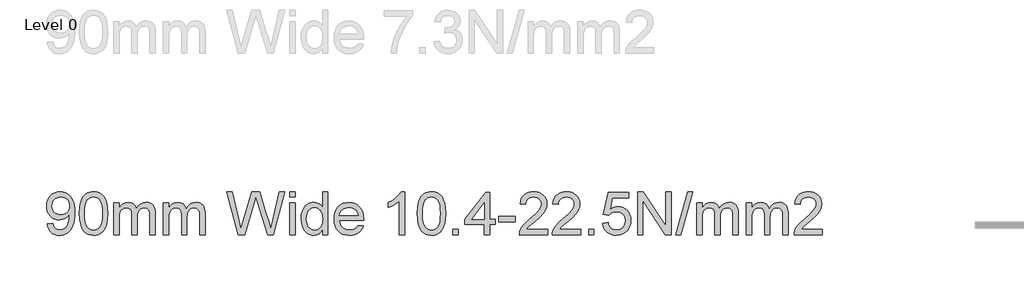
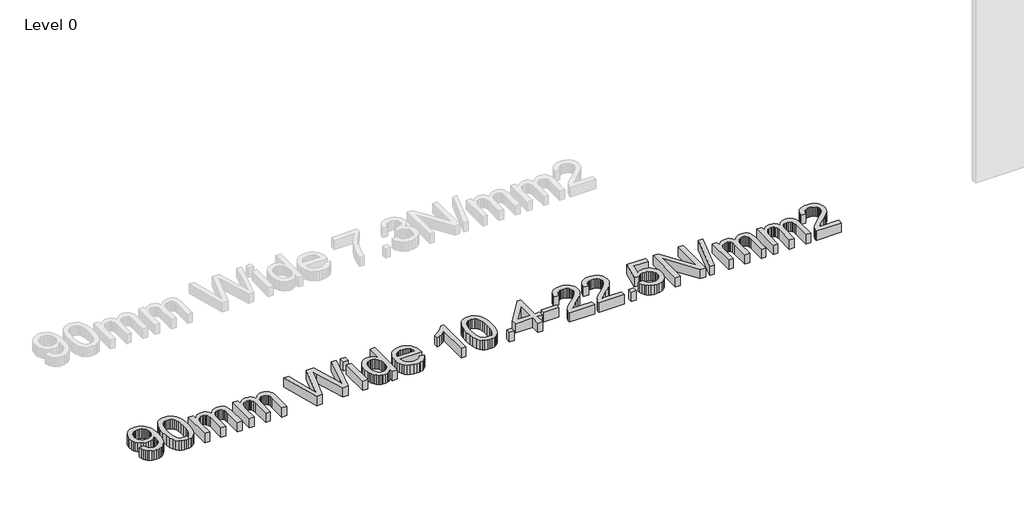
# One storey, part 5 of 14: 1 proxy.
"""IFC4 building model written with IfcOpenShell, lengths in millimetres."""

from ifc_helpers import new_model, si_unit, origin, origin_with_axes, place, context, project, spatial, polyline, outline, extrude, element, save

model = new_model("IFC4")

# Units and contexts
model_context = context("Model", 3, world=origin())
ifc_project = project(units=[si_unit("LENGTHUNIT", "METRE", prefix="MILLI")], contexts=[model_context])

# Site, building, storey
site = spatial("IfcSite", under=ifc_project)
building = spatial("IfcBuilding", under=site)
storey = spatial("IfcBuildingStorey", under=building, Name="Level 0", Elevation=0.0)

# Proxy
placement = place(None, origin())
element("IfcBuildingElementProxy", 1, Name="600mm Arial", ObjectType="600mm Arial", at=placement, inside=storey, context=model_context, shape_type="SweptSolid", body=[
    extrude(outline(polyline([(-37902.4149048, 15065.513593), (-37828.568751, 15074.7443623), (-37815.9485587, 15032.827295), (-37806.6637029, 15016.8852878), (-37795.3956741, 15004.2876315), (-37782.2706741, 14994.7278358), (-37767.4149048, 14987.8994104), (-37732.5110587, 14982.43667), (-37701.1949529, 14985.952295), (-37672.7274048, 14996.49917), (-37649.0735587, 15012.9234488), (-37632.1985587, 15034.0712854), (-37619.4161068, 15061.8717661), (-37608.0399048, 15098.2539777), (-37600.0350972, 15140.0087854), (-37597.3668279, 15183.9270546), (-37597.7995202, 15198.3501315), (-37623.3824529, 15167.12417), (-37656.8620202, 15142.388593), (-37695.8223568, 15126.2708046), (-37737.8475972, 15120.8982084), (-37772.9272246, 15124.1794584), (-37805.1853375, 15134.0232084), (-37834.6219361, 15150.4294584), (-37861.2370202, 15173.3982084), (-37883.2908063, 15201.7305402), (-37899.0435106, 15234.2275354), (-37908.4951332, 15270.889194), (-37911.6456741, 15311.7155161), (-37908.341888, 15353.9030161), (-37898.4305298, 15391.763593), (-37881.9115996, 15425.2972469), (-37858.7850972, 15454.5039777), (-37830.6826332, 15478.1668382), (-37799.2358183, 15495.0688815), (-37764.4446524, 15505.2101075), (-37726.3091356, 15508.5905161), (-37698.1525851, 15506.6614296), (-37671.2310106, 15500.87417), (-37645.5444121, 15491.2287373), (-37621.0927895, 15477.7251315), (-37598.6919481, 15460.6518142), (-37579.1576933, 15440.2972469), (-37562.490025, 15416.6614296), (-37548.6889433, 15389.7443623), (-37537.8671284, 15357.9955642), (-37530.1372606, 15319.8645546), (-37525.4993399, 15275.3513334), (-37523.9533664, 15224.4559007), (-37525.4948327, 15171.0048791), (-37530.1192318, 15123.296045), (-37537.8265635, 15081.3293983), (-37548.6168279, 15045.1049392), (-37562.4494601, 15013.7392541), (-37579.2838952, 14986.3489296), (-37599.1201332, 14962.9339656), (-37621.9581741, 14943.4943623), (-37647.3382823, 14928.2239296), (-37674.8007222, 14917.3164777), (-37704.3454938, 14910.7720065), (-37735.9725972, 14908.5905161), (-37769.1366597, 14911.1641339), (-37799.1096164, 14918.8849873), (-37825.8914673, 14931.7530762), (-37849.4822125, 14949.7684007), (-37869.2869, 14972.444182), (-37884.7105779, 14999.2936411), (-37895.7532462, 15030.3167781), (-37902.4149048, 15065.513593)]), holes=[polyline([(-37597.7995202, 15313.4462854), (-37599.7917077, 15339.9126315), (-37605.7682702, 15363.4943623), (-37615.7292077, 15384.1914777), (-37629.6745202, 15402.0039777), (-37646.9191116, 15416.3278959), (-37666.7778856, 15426.5592661), (-37689.2508423, 15432.6980882), (-37714.3379818, 15434.7443623), (-37740.2274048, 15432.5403358), (-37763.6649048, 15425.9282565), (-37784.6504818, 15414.9081243), (-37803.1841356, 15399.4799392), (-37818.3283664, 15380.5451435), (-37829.1456741, 15359.0051796), (-37835.6360587, 15334.8600474), (-37837.7995202, 15308.1097469), (-37835.7532462, 15284.1178599), (-37829.6144241, 15262.4787373), (-37819.3830539, 15243.1923791), (-37805.0591356, 15226.2587854), (-37787.2376212, 15212.4712253), (-37766.5134625, 15202.622968), (-37742.8866597, 15196.7140137), (-37716.3572125, 15194.7443623), (-37691.6171284, 15196.7140137), (-37669.1757222, 15202.622968), (-37649.0329938, 15212.4712253), (-37631.1889433, 15226.2587854), (-37616.5810707, 15243.5259128), (-37606.146876, 15263.8128719), (-37599.8863592, 15287.1196628), (-37597.7995202, 15313.4462854)])]), origin_with_axes(), (0.0, 0.0, 1.0), 150.0),
    extrude(outline(polyline([(-37459.3379818, 15208.4462854), (-37453.9112991, 15303.0075834), (-37447.1279457, 15343.1082445), (-37437.631251, 15378.4222469), (-37425.4617798, 15409.2380522), (-37410.6600972, 15435.8441219), (-37393.2262029, 15458.240456), (-37373.1600972, 15476.4270546), (-37350.3941717, 15490.498569), (-37324.8608183, 15500.5496507), (-37296.5600371, 15506.5802998), (-37265.4918279, 15508.5905161), (-37219.9870202, 15503.8309007), (-37179.2418279, 15489.5520546), (-37145.1673087, 15466.3128719), (-37119.6745202, 15434.6722469), (-37100.4197125, 15394.9006123), (-37085.0591356, 15347.2684007), (-37074.9990395, 15286.7816219), (-37071.6456741, 15208.4462854), (-37077.0182702, 15114.4258527), (-37083.7340154, 15074.4604079), (-37093.1360587, 15039.1914777), (-37105.2108784, 15008.3621507), (-37119.9449529, 14981.7155161), (-37137.3382823, 14959.2515738), (-37157.3908664, 14940.9703238), (-37180.1838351, 14926.8041579), (-37205.7983183, 14916.685468), (-37234.2343159, 14910.6142541), (-37265.4918279, 14908.5905161), (-37306.1649048, 14912.1061411), (-37342.2225972, 14922.6530161), (-37373.6649048, 14940.2311411), (-37400.4918279, 14964.8405161), (-37426.2370202, 15009.326694), (-37444.6264433, 15064.7563815), (-37455.6600972, 15131.1295786), (-37459.3379818, 15208.4462854)]), holes=[polyline([(-37385.4918279, 15208.5905161), (-37383.3283664, 15144.3943022), (-37376.8379818, 15092.4306604), (-37366.0206741, 15052.6995906), (-37350.8764433, 15025.201093), (-37332.5591356, 15006.4916579), (-37312.2225972, 14993.1277757), (-37289.8668279, 14985.1094464), (-37265.4918279, 14982.43667), (-37241.1168279, 14985.1184608), (-37218.7610587, 14993.1638334), (-37198.4245202, 15006.5727878), (-37180.1072125, 15025.3453238), (-37164.9629818, 15052.8888935), (-37154.1456741, 15092.6109488), (-37147.6552895, 15144.5114897), (-37145.4918279, 15208.5905161), (-37147.5831741, 15271.0875113), (-37153.8572125, 15322.1361892), (-37164.3139433, 15361.7365498), (-37178.9533664, 15389.888593), (-37196.9641837, 15409.5129921), (-37217.5350972, 15423.53042), (-37240.6661068, 15431.9408767), (-37266.3572125, 15434.7443623), (-37290.6060106, 15432.2744104), (-37312.5831741, 15424.8645546), (-37332.2887029, 15412.514795), (-37349.7225972, 15395.2251315), (-37365.3716356, 15364.576093), (-37376.5495202, 15323.2539777), (-37383.256251, 15271.2587854), (-37385.4918279, 15208.5905161)])]), origin_with_axes(), (0.0, 0.0, 1.0), 150.0),
    extrude(outline(polyline([(-36988.568751, 14917.8212854), (-36988.568751, 15351.6674392), (-36914.7225972, 15351.6674392), (-36914.7225972, 15280.2732084), (-36892.5110587, 15313.0676796), (-36863.9533664, 15338.7587854), (-36830.0230779, 15355.3633527), (-36791.693751, 15360.8982084), (-36750.6240395, 15355.2551796), (-36733.1450731, 15348.2013935), (-36717.7033664, 15338.326093), (-36693.1120202, 15311.2287373), (-36677.0302895, 15275.0809007), (-36650.1132222, 15312.6259729), (-36619.4100972, 15339.4438815), (-36584.9209145, 15355.5346267), (-36546.6456741, 15360.8982084), (-36517.0828736, 15358.6671387), (-36491.1348568, 15351.9739296), (-36468.8016236, 15340.818581), (-36450.0831741, 15325.201093), (-36435.2859986, 15304.9411772), (-36424.7165875, 15279.858545), (-36418.3749409, 15249.9531964), (-36416.2610587, 15215.2251315), (-36416.2610587, 14917.8212854), (-36490.1072125, 14917.8212854), (-36490.1072125, 15183.4943623), (-36491.8199529, 15220.327295), (-36496.9581741, 15245.1530161), (-36506.5855779, 15262.154218), (-36521.7658664, 15275.513593), (-36541.2911068, 15284.1674392), (-36563.9533664, 15287.0520546), (-36584.8803496, 15285.2040979), (-36603.959376, 15279.6602277), (-36621.1904457, 15270.420444), (-36636.5735587, 15257.4847469), (-36649.2253015, 15240.4745305), (-36658.2622606, 15219.0111892), (-36663.6844361, 15193.0947229), (-36665.4918279, 15162.7251315), (-36665.4918279, 14917.8212854), (-36739.3379818, 14917.8212854), (-36739.3379818, 15191.7155161), (-36743.6108183, 15233.4703238), (-36756.4293279, 15263.2539777), (-36766.3406861, 15273.6656363), (-36778.9834145, 15281.1025354), (-36794.357513, 15285.5646748), (-36812.4629818, 15287.0520546), (-36840.912501, 15283.0857084), (-36867.1264433, 15271.18667), (-36888.7610587, 15251.6434007), (-36903.4725972, 15224.7443623), (-36911.9100972, 15187.4246507), (-36914.7225972, 15136.6193623), (-36914.7225972, 14917.8212854), (-36988.568751, 14917.8212854)])), origin_with_axes(), (0.0, 0.0, 1.0), 150.0),
    extrude(outline(polyline([(-36305.4918279, 14917.8212854), (-36305.4918279, 15351.6674392), (-36231.6456741, 15351.6674392), (-36231.6456741, 15280.2732084), (-36209.4341356, 15313.0676796), (-36180.8764433, 15338.7587854), (-36146.9461548, 15355.3633527), (-36108.6168279, 15360.8982084), (-36067.5471164, 15355.2551796), (-36050.06815, 15348.2013935), (-36034.6264433, 15338.326093), (-36010.0350972, 15311.2287373), (-35993.9533664, 15275.0809007), (-35967.0362991, 15312.6259729), (-35936.3331741, 15339.4438815), (-35901.8439914, 15355.5346267), (-35863.568751, 15360.8982084), (-35834.0059505, 15358.6671387), (-35808.0579337, 15351.9739296), (-35785.7247005, 15340.818581), (-35767.006251, 15325.201093), (-35752.2090755, 15304.9411772), (-35741.6396645, 15279.858545), (-35735.2980178, 15249.9531964), (-35733.1841356, 15215.2251315), (-35733.1841356, 14917.8212854), (-35807.0302895, 14917.8212854), (-35807.0302895, 15183.4943623), (-35808.7430298, 15220.327295), (-35813.881251, 15245.1530161), (-35823.5086548, 15262.154218), (-35838.6889433, 15275.513593), (-35858.2141837, 15284.1674392), (-35880.8764433, 15287.0520546), (-35901.8034265, 15285.2040979), (-35920.8824529, 15279.6602277), (-35938.1135226, 15270.420444), (-35953.4966356, 15257.4847469), (-35966.1483784, 15240.4745305), (-35975.1853375, 15219.0111892), (-35980.607513, 15193.0947229), (-35982.4149048, 15162.7251315), (-35982.4149048, 14917.8212854), (-36056.2610587, 14917.8212854), (-36056.2610587, 15191.7155161), (-36060.5338952, 15233.4703238), (-36073.3524048, 15263.2539777), (-36083.263763, 15273.6656363), (-36095.9064914, 15281.1025354), (-36111.2805899, 15285.5646748), (-36129.3860587, 15287.0520546), (-36157.8355779, 15283.0857084), (-36184.0495202, 15271.18667), (-36205.6841356, 15251.6434007), (-36220.3956741, 15224.7443623), (-36228.8331741, 15187.4246507), (-36231.6456741, 15136.6193623), (-36231.6456741, 14917.8212854), (-36305.4918279, 14917.8212854)])), origin_with_axes(), (0.0, 0.0, 1.0), 150.0),
    extrude(outline(polyline([(-35276.693751, 14917.8212854), (-35437.7995202, 15508.5905161), (-35361.6456741, 15508.5905161), (-35268.1841356, 15120.3212854), (-35239.3379818, 15000.4655161), (-35208.4725972, 15106.4751315), (-35091.3572125, 15508.5905161), (-34981.5975972, 15508.5905161), (-34896.5014433, 15217.1001315), (-34860.0471164, 15108.9270546), (-34833.1841356, 15000.4655161), (-34805.2033664, 15116.8597469), (-34710.8764433, 15508.5905161), (-34634.7225972, 15508.5905161), (-34795.9725972, 14917.8212854), (-34874.8668279, 14917.8212854), (-35016.5014433, 15373.5905161), (-35036.2610587, 15437.1962854), (-35058.4725972, 15360.6097469), (-35187.5591356, 14917.8212854), (-35276.693751, 14917.8212854)])), origin_with_axes(), (0.0, 0.0, 1.0), 150.0),
    extrude(outline(polyline([(-34570.1072125, 14917.8212854), (-34570.1072125, 15351.6674392), (-34496.2610587, 15351.6674392), (-34496.2610587, 14917.8212854), (-34570.1072125, 14917.8212854)])), origin_with_axes(), (0.0, 0.0, 1.0), 150.0),
    extrude(outline(polyline([(-34570.1072125, 15434.7443623), (-34570.1072125, 15508.5905161), (-34496.2610587, 15508.5905161), (-34496.2610587, 15434.7443623), (-34570.1072125, 15434.7443623)])), origin_with_axes(), (0.0, 0.0, 1.0), 150.0),
    extrude(outline(polyline([(-34117.7995202, 14917.8212854), (-34117.7995202, 14987.4847469), (-34139.8938712, 14952.9685209), (-34166.6576933, 14928.3140738), (-34198.0909866, 14913.5214055), (-34234.193751, 14908.5905161), (-34258.568751, 14910.3753719), (-34281.9341356, 14915.7299392), (-34304.2899048, 14924.654218), (-34325.6360587, 14937.1482084), (-34345.3055298, 14952.8378118), (-34362.631251, 14971.3489296), (-34377.6132222, 14992.6815618), (-34390.2514433, 15016.8357084), (-34400.2844962, 15043.3516339), (-34407.4509625, 15071.7696027), (-34413.1841356, 15134.31167), (-34407.9016837, 15196.0784969), (-34392.0543279, 15251.8597469), (-34380.1733183, 15276.7125113), (-34365.6600972, 15298.482343), (-34348.5146645, 15317.1692421), (-34328.7370202, 15332.7732084), (-34307.0257823, 15345.0778959), (-34284.0795683, 15353.8669584), (-34259.8983784, 15359.1403959), (-34234.4822125, 15360.8982084), (-34198.3524048, 15355.8681604), (-34166.4052895, 15340.7780161), (-34139.3259625, 15317.6470065), (-34117.7995202, 15288.4943623), (-34117.7995202, 15508.5905161), (-34043.9533664, 15508.5905161), (-34043.9533664, 14917.8212854), (-34117.7995202, 14917.8212854)]), holes=[polyline([(-34339.3379818, 15134.6001315), (-34337.25565, 15098.7903358), (-34331.0086548, 15067.8032565), (-34320.5969962, 15041.6388935), (-34306.0206741, 15020.2972469), (-34288.6138231, 15003.7332445), (-34269.7105779, 14991.9018142), (-34249.3109385, 14984.802956), (-34227.4149048, 14982.43667), (-34205.4152053, 14984.6947829), (-34185.1372606, 14991.4691219), (-34166.5810707, 15002.7596868), (-34149.7466356, 15018.5664777), (-34135.7697726, 15039.0156964), (-34125.7862991, 15064.233545), (-34119.7962149, 15094.2200233), (-34117.7995202, 15128.9751315), (-34119.8322726, 15167.0790979), (-34125.9305298, 15199.7563815), (-34136.0942919, 15227.0069825), (-34150.3235587, 15248.8309007), (-34167.5275851, 15265.5526555), (-34186.615626, 15277.4967661), (-34207.5876813, 15284.6632325), (-34230.443751, 15287.0520546), (-34252.772477, 15284.7578839), (-34273.1721164, 15277.8753719), (-34291.6426693, 15266.4045185), (-34308.1841356, 15250.3453238), (-34321.8139433, 15229.3462253), (-34331.5495202, 15203.0556604), (-34337.3908664, 15171.4736291), (-34339.3379818, 15134.6001315)])]), origin_with_axes(), (0.0, 0.0, 1.0), 150.0),
    extrude(outline(polyline([(-33629.4341356, 15047.0520546), (-33557.0302895, 15037.8212854), (-33568.1315515, 15008.8218863), (-33583.1180298, 14983.2659969), (-33601.9897246, 14961.1536171), (-33624.7466356, 14942.4847469), (-33651.154388, 14927.6560209), (-33680.9786068, 14917.0640738), (-33714.2192919, 14910.7089055), (-33750.8764433, 14908.5905161), (-33796.6967558, 14912.2458647), (-33837.5230779, 14923.2119104), (-33873.3554097, 14941.4886531), (-33904.193751, 14967.076093), (-33928.9924289, 14999.2620906), (-33946.7057702, 15037.3345065), (-33957.333775, 15081.2933406), (-33960.8764433, 15131.138593), (-33957.2977173, 15182.6740498), (-33946.5615395, 15228.0977277), (-33928.6679097, 15267.4096267), (-33903.6168279, 15300.6097469), (-33872.8596164, 15326.9859488), (-33837.8475972, 15345.826093), (-33798.5807702, 15357.1301796), (-33755.0591356, 15360.8982084), (-33712.9392438, 15357.139194), (-33674.8487991, 15345.8621507), (-33640.7878015, 15327.0670786), (-33610.756251, 15300.7539777), (-33586.2415274, 15267.6259729), (-33568.7310106, 15228.3861892), (-33558.2247005, 15183.0346267), (-33554.7225972, 15131.5712854), (-33555.1552895, 15111.6674392), (-33887.0302895, 15111.6674392), (-33882.7529457, 15082.1992902), (-33874.2478375, 15056.3909969), (-33861.5149649, 15034.2425594), (-33844.5543279, 15015.7539777), (-33824.3034265, 15001.1776555), (-33801.6997606, 14990.7659969), (-33776.7433303, 14984.5190017), (-33749.4341356, 14982.43667), (-33710.131251, 14986.294843), (-33677.0302895, 14997.8693623), (-33650.131251, 15017.8813815), (-33629.4341356, 15047.0520546)]), holes=[polyline([(-33887.0302895, 15185.513593), (-33628.568751, 15185.513593), (-33638.5567318, 15224.5280161), (-33647.147477, 15239.8705642), (-33658.1360587, 15252.43667), (-33678.2742798, 15267.5809007), (-33701.1889433, 15278.3982084), (-33726.8800491, 15284.888593), (-33755.3475972, 15287.0520546), (-33781.3136428, 15285.3257926), (-33805.1252414, 15280.1470065), (-33826.7823928, 15271.5156964), (-33846.2850972, 15259.4318623), (-33862.6507823, 15244.4543983), (-33874.896876, 15227.1421988), (-33883.0233784, 15207.4952637), (-33887.0302895, 15185.513593)])]), origin_with_axes(), (0.0, 0.0, 1.0), 150.0),
    extrude(outline(polyline([(-32991.6456741, 14917.8212854), (-33065.4918279, 14917.8212854), (-33065.4918279, 15378.2059007), (-33096.3211548, 15353.2720065), (-33135.443751, 15328.37417), (-33176.5134625, 15306.6133527), (-33213.1841356, 15291.0905161), (-33213.1841356, 15360.8982084), (-33155.1853375, 15392.4486892), (-33104.9389433, 15429.9847469), (-33065.3295683, 15469.9006123), (-33039.2418279, 15508.5905161), (-32991.6456741, 15508.5905161), (-32991.6456741, 14917.8212854)])), origin_with_axes(), (0.0, 0.0, 1.0), 150.0),
    extrude(outline(polyline([(-32816.2610587, 15208.4462854), (-32810.834376, 15303.0075834), (-32804.0510226, 15343.1082445), (-32794.5543279, 15378.4222469), (-32782.3848568, 15409.2380522), (-32767.5831741, 15435.8441219), (-32750.1492798, 15458.240456), (-32730.0831741, 15476.4270546), (-32707.3172486, 15490.498569), (-32681.7838952, 15500.5496507), (-32653.483114, 15506.5802998), (-32622.4149048, 15508.5905161), (-32576.9100972, 15503.8309007), (-32536.1649048, 15489.5520546), (-32502.0903856, 15466.3128719), (-32476.5975972, 15434.6722469), (-32457.3427895, 15394.9006123), (-32441.9822125, 15347.2684007), (-32431.9221164, 15286.7816219), (-32428.568751, 15208.4462854), (-32433.9413472, 15114.4258527), (-32440.6570923, 15074.4604079), (-32450.0591356, 15039.1914777), (-32462.1339553, 15008.3621507), (-32476.8680298, 14981.7155161), (-32494.2613592, 14959.2515738), (-32514.3139433, 14940.9703238), (-32537.1069121, 14926.8041579), (-32562.7213952, 14916.685468), (-32591.1573928, 14910.6142541), (-32622.4149048, 14908.5905161), (-32663.0879818, 14912.1061411), (-32699.1456741, 14922.6530161), (-32730.5879818, 14940.2311411), (-32757.4149048, 14964.8405161), (-32783.1600972, 15009.326694), (-32801.5495202, 15064.7563815), (-32812.5831741, 15131.1295786), (-32816.2610587, 15208.4462854)]), holes=[polyline([(-32742.4149048, 15208.5905161), (-32740.2514433, 15144.3943022), (-32733.7610587, 15092.4306604), (-32722.943751, 15052.6995906), (-32707.7995202, 15025.201093), (-32689.4822125, 15006.4916579), (-32669.1456741, 14993.1277757), (-32646.7899048, 14985.1094464), (-32622.4149048, 14982.43667), (-32598.0399048, 14985.1184608), (-32575.6841356, 14993.1638334), (-32555.3475972, 15006.5727878), (-32537.0302895, 15025.3453238), (-32521.8860587, 15052.8888935), (-32511.068751, 15092.6109488), (-32504.5783664, 15144.5114897), (-32502.4149048, 15208.5905161), (-32504.506251, 15271.0875113), (-32510.7802895, 15322.1361892), (-32521.2370202, 15361.7365498), (-32535.8764433, 15389.888593), (-32553.8872606, 15409.5129921), (-32574.4581741, 15423.53042), (-32597.5891837, 15431.9408767), (-32623.2802895, 15434.7443623), (-32647.5290875, 15432.2744104), (-32669.506251, 15424.8645546), (-32689.2117798, 15412.514795), (-32706.6456741, 15395.2251315), (-32722.2947125, 15364.576093), (-32733.4725972, 15323.2539777), (-32740.1793279, 15271.2587854), (-32742.4149048, 15208.5905161)])]), origin_with_axes(), (0.0, 0.0, 1.0), 150.0),
    extrude(outline(polyline([(-32327.0302895, 14917.8212854), (-32327.0302895, 14991.6674392), (-32253.1841356, 14991.6674392), (-32253.1841356, 14917.8212854), (-32327.0302895, 14917.8212854)])), origin_with_axes(), (0.0, 0.0, 1.0), 150.0),
    extrude(outline(polyline([(-31893.1841356, 14917.8212854), (-31893.1841356, 15056.2828238), (-32160.8764433, 15056.2828238), (-32160.8764433, 15130.1289777), (-31874.7225972, 15499.3597469), (-31819.3379818, 15499.3597469), (-31819.3379818, 15130.1289777), (-31745.4918279, 15130.1289777), (-31745.4918279, 15056.2828238), (-31819.3379818, 15056.2828238), (-31819.3379818, 14917.8212854), (-31893.1841356, 14917.8212854)]), holes=[polyline([(-31893.1841356, 15130.1289777), (-31893.1841356, 15358.3020546), (-32070.0110587, 15130.1289777), (-31893.1841356, 15130.1289777)])]), origin_with_axes(), (0.0, 0.0, 1.0), 150.0),
    extrude(outline(polyline([(-31699.3379818, 15093.2059007), (-31699.3379818, 15167.0520546), (-31468.568751, 15167.0520546), (-31468.568751, 15093.2059007), (-31699.3379818, 15093.2059007)])), origin_with_axes(), (0.0, 0.0, 1.0), 150.0),
    extrude(outline(polyline([(-31025.4918279, 14991.6674392), (-31025.4918279, 14917.8212854), (-31413.1841356, 14917.8212854), (-31411.5615395, 14943.8188815), (-31405.2514433, 14968.7347469), (-31387.0423087, 15008.5244104), (-31360.3956741, 15047.12417), (-31321.850001, 15087.5268142), (-31267.943751, 15132.7251315), (-31188.256251, 15203.5063815), (-31140.443751, 15255.7539777), (-31126.4984385, 15277.1001315), (-31116.537501, 15298.1578238), (-31110.5609385, 15318.9270546), (-31108.568751, 15339.4078238), (-31110.4482582, 15358.6761531), (-31116.0867798, 15376.3849873), (-31125.4843159, 15392.5343262), (-31138.6408664, 15407.12417), (-31154.826263, 15419.2080041), (-31173.3103375, 15427.8393142), (-31194.0930899, 15433.0181003), (-31217.1745202, 15434.7443623), (-31241.4909265, 15433.0586652), (-31263.2382222, 15428.0015738), (-31282.4164073, 15419.5730882), (-31299.0254818, 15407.7732084), (-31312.4614794, 15392.998569), (-31322.1204337, 15375.6458046), (-31328.0023448, 15355.7149152), (-31330.1072125, 15333.2059007), (-31403.9533664, 15342.43667), (-31397.6027053, 15380.5586652), (-31386.0507222, 15413.8669584), (-31369.2974169, 15442.3615498), (-31347.3427895, 15466.0424392), (-31320.6916476, 15484.6572229), (-31289.8487991, 15497.9534969), (-31254.8142438, 15505.9312613), (-31215.5879818, 15508.5905161), (-31176.0101573, 15505.6337854), (-31140.7862991, 15496.763593), (-31109.9164073, 15481.9799392), (-31083.4004818, 15461.2828238), (-31062.1039073, 15436.2046988), (-31046.8920683, 15408.2780161), (-31037.7649649, 15377.5027757), (-31034.7225972, 15343.8789777), (-31038.0038472, 15308.560468), (-31047.8475972, 15273.8549392), (-31065.3175491, 15238.5544584), (-31091.4774048, 15201.451093), (-31133.178126, 15157.154218), (-31197.2706741, 15100.2732084), (-31282.2225972, 15029.2395546), (-31315.5399048, 14991.6674392), (-31025.4918279, 14991.6674392)])), origin_with_axes(), (0.0, 0.0, 1.0), 150.0),
    extrude(outline(polyline([(-30573.1841356, 14991.6674392), (-30573.1841356, 14917.8212854), (-30960.8764433, 14917.8212854), (-30959.2538472, 14943.8188815), (-30952.943751, 14968.7347469), (-30934.7346164, 15008.5244104), (-30908.0879818, 15047.12417), (-30869.5423087, 15087.5268142), (-30815.6360587, 15132.7251315), (-30735.9485587, 15203.5063815), (-30688.1360587, 15255.7539777), (-30674.1907462, 15277.1001315), (-30664.2298087, 15298.1578238), (-30658.2532462, 15318.9270546), (-30656.2610587, 15339.4078238), (-30658.1405659, 15358.6761531), (-30663.7790875, 15376.3849873), (-30673.1766236, 15392.5343262), (-30686.3331741, 15407.12417), (-30702.5185707, 15419.2080041), (-30721.0026452, 15427.8393142), (-30741.7853976, 15433.0181003), (-30764.8668279, 15434.7443623), (-30789.1832342, 15433.0586652), (-30810.9305298, 15428.0015738), (-30830.1087149, 15419.5730882), (-30846.7177895, 15407.7732084), (-30860.1537871, 15392.998569), (-30869.8127414, 15375.6458046), (-30875.6946524, 15355.7149152), (-30877.7995202, 15333.2059007), (-30951.6456741, 15342.43667), (-30945.295013, 15380.5586652), (-30933.7430298, 15413.8669584), (-30916.9897246, 15442.3615498), (-30895.0350972, 15466.0424392), (-30868.3839553, 15484.6572229), (-30837.5411068, 15497.9534969), (-30802.5065515, 15505.9312613), (-30763.2802895, 15508.5905161), (-30723.7024649, 15505.6337854), (-30688.4786068, 15496.763593), (-30657.6087149, 15481.9799392), (-30631.0927895, 15461.2828238), (-30609.7962149, 15436.2046988), (-30594.584376, 15408.2780161), (-30585.4572726, 15377.5027757), (-30582.4149048, 15343.8789777), (-30585.6961548, 15308.560468), (-30595.5399048, 15273.8549392), (-30613.0098568, 15238.5544584), (-30639.1697125, 15201.451093), (-30680.8704337, 15157.154218), (-30744.9629818, 15100.2732084), (-30829.9149048, 15029.2395546), (-30863.2322125, 14991.6674392), (-30573.1841356, 14991.6674392)])), origin_with_axes(), (0.0, 0.0, 1.0), 150.0),
    extrude(outline(polyline([(-30462.4149048, 14917.8212854), (-30462.4149048, 14991.6674392), (-30388.568751, 14991.6674392), (-30388.568751, 14917.8212854), (-30462.4149048, 14917.8212854)])), origin_with_axes(), (0.0, 0.0, 1.0), 150.0),
    extrude(outline(polyline([(-30268.568751, 15074.7443623), (-30194.7225972, 15083.9751315), (-30189.2057702, 15060.2356483), (-30181.1649048, 15039.6421988), (-30170.600001, 15022.1947829), (-30157.5110587, 15007.8934007), (-30141.9251212, 14996.756081), (-30123.8692318, 14988.8008527), (-30103.3433904, 14984.0277156), (-30080.3475972, 14982.43667), (-30052.2225972, 14984.6497108), (-30027.4149048, 14991.2888334), (-30005.9245202, 15002.3540378), (-29987.7514433, 15017.8453238), (-29973.3013231, 15036.9964656), (-29962.9798087, 15059.0412373), (-29956.7869, 15083.9796387), (-29954.7225972, 15111.81167), (-29956.6561909, 15138.1157565), (-29962.4569722, 15161.49917), (-29972.1249409, 15181.9619104), (-29985.6600972, 15199.5039777), (-30003.107513, 15213.5754921), (-30024.5122606, 15223.6265738), (-30049.8743399, 15229.6572229), (-30079.193751, 15231.6674392), (-30115.0170683, 15228.4583046), (-30144.0254818, 15218.8309007), (-30167.1925491, 15204.0833046), (-30185.4918279, 15185.513593), (-30259.3379818, 15194.7443623), (-30194.7225972, 15499.3597469), (-29908.568751, 15499.3597469), (-29908.568751, 15425.513593), (-30135.0110587, 15425.513593), (-30166.5975972, 15262.8212854), (-30140.5369, 15281.49917), (-30113.8451933, 15294.8405161), (-30086.522477, 15302.8453238), (-30058.568751, 15305.513593), (-30022.6057101, 15302.2052998), (-29989.5723568, 15292.28042), (-29959.4686909, 15275.7389536), (-29932.2947125, 15252.5809007), (-29909.7992198, 15224.2215257), (-29893.7310106, 15192.076093), (-29884.0900851, 15156.1446027), (-29880.8764433, 15116.4270546), (-29883.7700731, 15078.169843), (-29892.4509625, 15042.5809007), (-29906.9191116, 15009.6602277), (-29927.1745202, 14979.4078238), (-29957.8596164, 14948.4252517), (-29993.6649048, 14926.294843), (-30034.5903856, 14913.0165979), (-30080.6360587, 14908.5905161), (-30118.7445323, 14911.4345666), (-30153.1661068, 14919.966718), (-30183.9007823, 14934.1869704), (-30210.9485587, 14954.0953238), (-30233.4530659, 14978.7001916), (-30250.5579337, 15007.0099873), (-30262.2631621, 15039.0247108), (-30268.568751, 15074.7443623)])), origin_with_axes(), (0.0, 0.0, 1.0), 150.0),
    extrude(outline(polyline([(-29788.568751, 14917.8212854), (-29788.568751, 15508.5905161), (-29709.5302895, 15508.5905161), (-29400.8764433, 15040.56167), (-29400.8764433, 15508.5905161), (-29327.0302895, 15508.5905161), (-29327.0302895, 14917.8212854), (-29406.068751, 14917.8212854), (-29714.7225972, 15385.9943623), (-29714.7225972, 14917.8212854), (-29788.568751, 14917.8212854)])), origin_with_axes(), (0.0, 0.0, 1.0), 150.0),
    extrude(outline(polyline([(-29262.4149048, 14917.8212854), (-29096.2610587, 15508.5905161), (-29029.6264433, 15508.5905161), (-29195.7802895, 14917.8212854), (-29262.4149048, 14917.8212854)])), origin_with_axes(), (0.0, 0.0, 1.0), 150.0),
    extrude(outline(polyline([(-28976.2610587, 14917.8212854), (-28976.2610587, 15351.6674392), (-28902.4149048, 15351.6674392), (-28902.4149048, 15280.2732084), (-28880.2033664, 15313.0676796), (-28851.6456741, 15338.7587854), (-28817.7153856, 15355.3633527), (-28779.3860587, 15360.8982084), (-28738.3163472, 15355.2551796), (-28720.8373808, 15348.2013935), (-28705.3956741, 15338.326093), (-28680.8043279, 15311.2287373), (-28664.7225972, 15275.0809007), (-28637.8055298, 15312.6259729), (-28607.1024048, 15339.4438815), (-28572.6132222, 15355.5346267), (-28534.3379818, 15360.8982084), (-28504.7751813, 15358.6671387), (-28478.8271645, 15351.9739296), (-28456.4939313, 15340.818581), (-28437.7754818, 15325.201093), (-28422.9783063, 15304.9411772), (-28412.4088952, 15279.858545), (-28406.0672486, 15249.9531964), (-28403.9533664, 15215.2251315), (-28403.9533664, 14917.8212854), (-28477.7995202, 14917.8212854), (-28477.7995202, 15183.4943623), (-28479.5122606, 15220.327295), (-28484.6504818, 15245.1530161), (-28494.2778856, 15262.154218), (-28509.4581741, 15275.513593), (-28528.9834145, 15284.1674392), (-28551.6456741, 15287.0520546), (-28572.5726573, 15285.2040979), (-28591.6516837, 15279.6602277), (-28608.8827534, 15270.420444), (-28624.2658664, 15257.4847469), (-28636.9176092, 15240.4745305), (-28645.9545683, 15219.0111892), (-28651.3767438, 15193.0947229), (-28653.1841356, 15162.7251315), (-28653.1841356, 14917.8212854), (-28727.0302895, 14917.8212854), (-28727.0302895, 15191.7155161), (-28731.303126, 15233.4703238), (-28744.1216356, 15263.2539777), (-28754.0329938, 15273.6656363), (-28766.6757222, 15281.1025354), (-28782.0498207, 15285.5646748), (-28800.1552895, 15287.0520546), (-28828.6048087, 15283.0857084), (-28854.818751, 15271.18667), (-28876.4533664, 15251.6434007), (-28891.1649048, 15224.7443623), (-28899.6024048, 15187.4246507), (-28902.4149048, 15136.6193623), (-28902.4149048, 14917.8212854), (-28976.2610587, 14917.8212854)])), origin_with_axes(), (0.0, 0.0, 1.0), 150.0),
    extrude(outline(polyline([(-28293.1841356, 14917.8212854), (-28293.1841356, 15351.6674392), (-28219.3379818, 15351.6674392), (-28219.3379818, 15280.2732084), (-28197.1264433, 15313.0676796), (-28168.568751, 15338.7587854), (-28134.6384625, 15355.3633527), (-28096.3091356, 15360.8982084), (-28055.2394241, 15355.2551796), (-28037.7604577, 15348.2013935), (-28022.318751, 15338.326093), (-27997.7274048, 15311.2287373), (-27981.6456741, 15275.0809007), (-27954.7286068, 15312.6259729), (-27924.0254818, 15339.4438815), (-27889.5362991, 15355.5346267), (-27851.2610587, 15360.8982084), (-27821.6982582, 15358.6671387), (-27795.7502414, 15351.9739296), (-27773.4170082, 15340.818581), (-27754.6985587, 15325.201093), (-27739.9013832, 15304.9411772), (-27729.3319722, 15279.858545), (-27722.9903255, 15249.9531964), (-27720.8764433, 15215.2251315), (-27720.8764433, 14917.8212854), (-27794.7225972, 14917.8212854), (-27794.7225972, 15183.4943623), (-27796.4353375, 15220.327295), (-27801.5735587, 15245.1530161), (-27811.2009625, 15262.154218), (-27826.381251, 15275.513593), (-27845.9064914, 15284.1674392), (-27868.568751, 15287.0520546), (-27889.4957342, 15285.2040979), (-27908.5747606, 15279.6602277), (-27925.8058303, 15270.420444), (-27941.1889433, 15257.4847469), (-27953.8406861, 15240.4745305), (-27962.8776452, 15219.0111892), (-27968.2998207, 15193.0947229), (-27970.1072125, 15162.7251315), (-27970.1072125, 14917.8212854), (-28043.9533664, 14917.8212854), (-28043.9533664, 15191.7155161), (-28048.2262029, 15233.4703238), (-28061.0447125, 15263.2539777), (-28070.9560707, 15273.6656363), (-28083.5987991, 15281.1025354), (-28098.9728976, 15285.5646748), (-28117.0783664, 15287.0520546), (-28145.5278856, 15283.0857084), (-28171.7418279, 15271.18667), (-28193.3764433, 15251.6434007), (-28208.0879818, 15224.7443623), (-28216.5254818, 15187.4246507), (-28219.3379818, 15136.6193623), (-28219.3379818, 14917.8212854), (-28293.1841356, 14917.8212854)])), origin_with_axes(), (0.0, 0.0, 1.0), 150.0),
    extrude(outline(polyline([(-27250.1072125, 14991.6674392), (-27250.1072125, 14917.8212854), (-27637.7995202, 14917.8212854), (-27636.1769241, 14943.8188815), (-27629.8668279, 14968.7347469), (-27611.6576933, 15008.5244104), (-27585.0110587, 15047.12417), (-27546.4653856, 15087.5268142), (-27492.5591356, 15132.7251315), (-27412.8716356, 15203.5063815), (-27365.0591356, 15255.7539777), (-27351.1138231, 15277.1001315), (-27341.1528856, 15298.1578238), (-27335.1763231, 15318.9270546), (-27333.1841356, 15339.4078238), (-27335.0636428, 15358.6761531), (-27340.7021645, 15376.3849873), (-27350.0997005, 15392.5343262), (-27363.256251, 15407.12417), (-27379.4416476, 15419.2080041), (-27397.9257222, 15427.8393142), (-27418.7084746, 15433.0181003), (-27441.7899048, 15434.7443623), (-27466.1063111, 15433.0586652), (-27487.8536068, 15428.0015738), (-27507.0317919, 15419.5730882), (-27523.6408664, 15407.7732084), (-27537.076864, 15392.998569), (-27546.7358183, 15375.6458046), (-27552.6177294, 15355.7149152), (-27554.7225972, 15333.2059007), (-27628.568751, 15342.43667), (-27622.2180899, 15380.5586652), (-27610.6661068, 15413.8669584), (-27593.9128015, 15442.3615498), (-27571.9581741, 15466.0424392), (-27545.3070323, 15484.6572229), (-27514.4641837, 15497.9534969), (-27479.4296284, 15505.9312613), (-27440.2033664, 15508.5905161), (-27400.6255419, 15505.6337854), (-27365.4016837, 15496.763593), (-27334.5317919, 15481.9799392), (-27308.0158664, 15461.2828238), (-27286.7192919, 15436.2046988), (-27271.5074529, 15408.2780161), (-27262.3803496, 15377.5027757), (-27259.3379818, 15343.8789777), (-27262.6192318, 15308.560468), (-27272.4629818, 15273.8549392), (-27289.9329337, 15238.5544584), (-27316.0927895, 15201.451093), (-27357.7935106, 15157.154218), (-27421.8860587, 15100.2732084), (-27506.8379818, 15029.2395546), (-27540.1552895, 14991.6674392), (-27250.1072125, 14991.6674392)])), origin_with_axes(), (0.0, 0.0, 1.0), 150.0),
])

save(model, "model.ifc")
